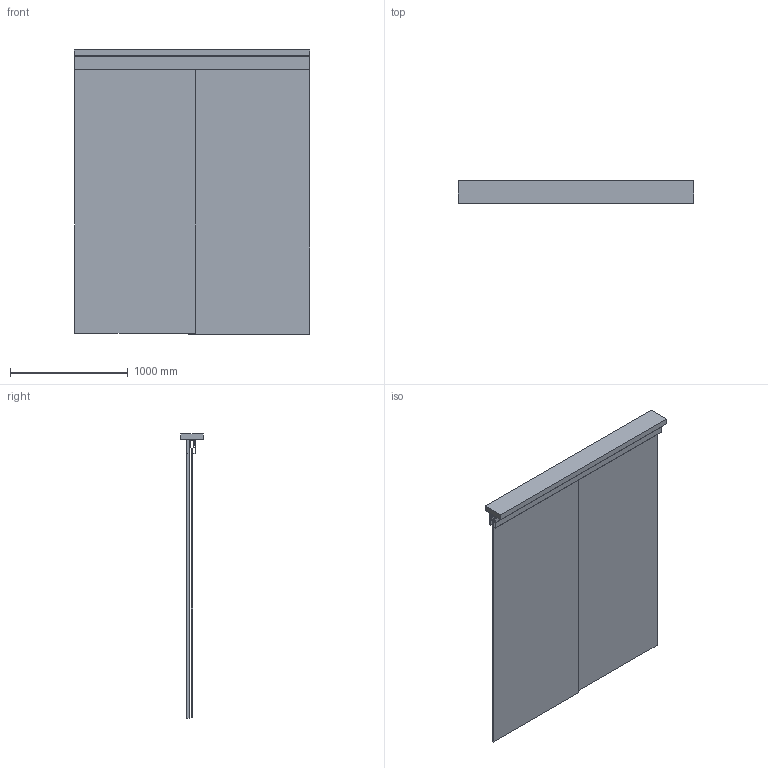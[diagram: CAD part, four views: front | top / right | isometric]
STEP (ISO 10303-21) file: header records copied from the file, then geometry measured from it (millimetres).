
FILE_DESCRIPTION(('STEP AP242'),'1');
FILE_NAME('OPO_65.084.07_volu_3d.stp','2026-02-23T17:28:41',(' '),(' '),'Spatial InterOp 3D',' ',' ');
FILE_SCHEMA(('AP242_MANAGED_MODEL_BASED_3D_ENGINEERING_MIM_LF {1 0 10303 442 1 1 4}'));
Length unit declared in the file: millimetre
Products named in the file (1): 1
Bounding box: 2000 x 188 x 2418 mm (x, y, z)
Volume: 92460174.9 mm3; surface area: 12467015 mm2
Topology: 5 solids, 5 shells, 189 faces, 509 edges, 338 vertices
Faces by surface type: plane 141, cylinder 48
Entity records: 7448 total; most frequent: CARTESIAN_POINT 1041, ORIENTED_EDGE 1018, DIRECTION 993, EDGE_CURVE 509, LINE 413, VECTOR 413, VERTEX_POINT 338, AXIS2_PLACEMENT_3D 290
